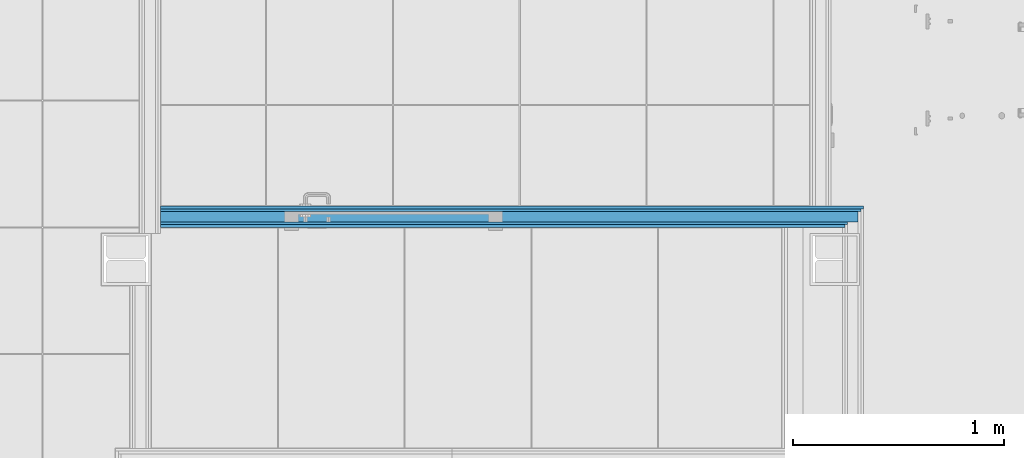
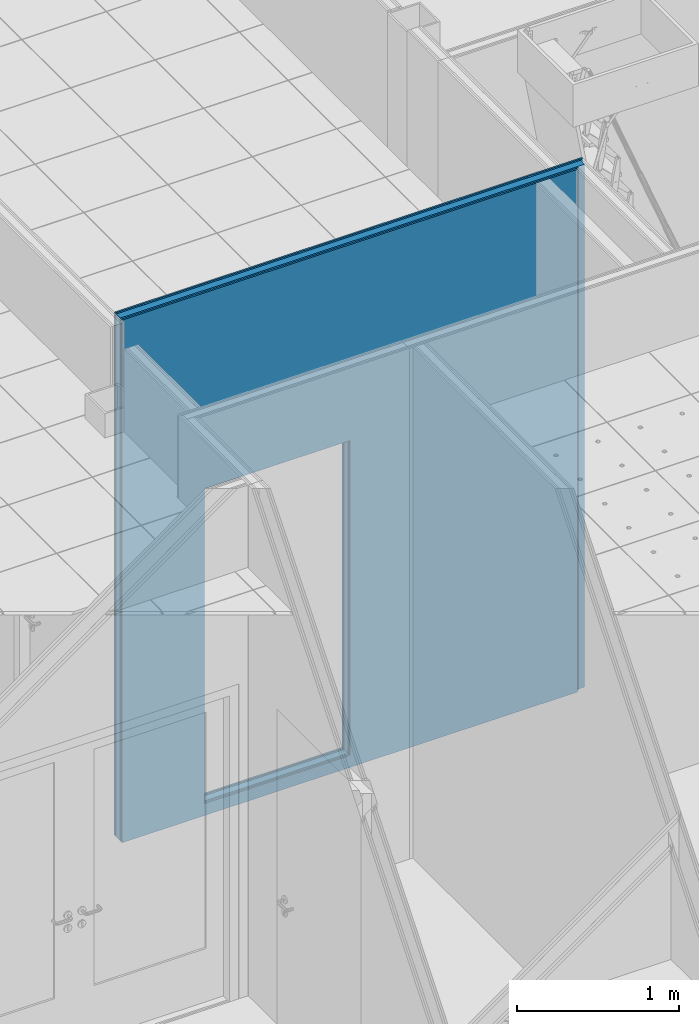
# One storey, part 24 of 321: 5 building element parts, 1 opening, 1 element without a shape of its own.
"""IFC2X3 building model written with IfcOpenShell, lengths in millimetres."""

from ifc_helpers import new_model, entity, si_unit, converted_unit, derived_unit, money_unit, direction, frame, origin_with_axes, place, context, subcontext, project, spatial, faceted_brep, material, type_object, element, aggregate, save


model = new_model("IFC2X3")

# Units and contexts
model_context = context("Model", 3, precision=0.01, world=origin_with_axes(), true_north=direction((0.0, 1.0)))
plan_context = context("Plan", 3, precision=0.01, world=origin_with_axes(), true_north=direction((0.0, 1.0)))
body_context = subcontext(model_context, "Body", "Model", "MODEL_VIEW")
ifc_project = project(units=[si_unit("LENGTHUNIT", "METRE", prefix="MILLI"), si_unit("AREAUNIT", "SQUARE_METRE"), si_unit("VOLUMEUNIT", "CUBIC_METRE"), converted_unit("PLANEANGLEUNIT", "DEGREE", entity("IfcPlaneAngleMeasure", 0.0174532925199), si_unit("PLANEANGLEUNIT", "RADIAN"), dimensions=[0, 0, 0, 0, 0, 0, 0]), money_unit("EUR"), converted_unit("TIMEUNIT", "Year", entity("IfcTimeMeasure", 31556926.0), si_unit("TIMEUNIT", "SECOND"), dimensions=[0, 0, 1, 0, 0, 0, 0]), si_unit("MASSUNIT", "GRAM", prefix="KILO"), si_unit("THERMODYNAMICTEMPERATUREUNIT", "DEGREE_CELSIUS"), si_unit("LUMINOUSINTENSITYUNIT", "LUMEN"), si_unit("ENERGYUNIT", "JOULE", prefix="MEGA"), derived_unit("THERMALCONDUCTANCEUNIT", [(si_unit("POWERUNIT", "WATT"), 1), (si_unit("LENGTHUNIT", "METRE"), -1), (si_unit("THERMODYNAMICTEMPERATUREUNIT", "KELVIN"), -1)]), derived_unit("SPECIFICHEATCAPACITYUNIT", [(si_unit("ENERGYUNIT", "JOULE"), 1), (si_unit("MASSUNIT", "GRAM", prefix="KILO"), -1), (si_unit("THERMODYNAMICTEMPERATUREUNIT", "KELVIN"), -1)]), derived_unit("MASSDENSITYUNIT", [(si_unit("MASSUNIT", "GRAM", prefix="KILO"), 1), (si_unit("VOLUMEUNIT", "CUBIC_METRE"), -1)])], contexts=[model_context, plan_context])

# Site, building, storey
site_placement = place(None, origin_with_axes())
site = spatial("IfcSite", under=ifc_project, at=site_placement, Name="Fortuinstraat Woensdrecht", CompositionType="ELEMENT")
building_placement = place(site_placement, origin_with_axes())
building = spatial("IfcBuilding", under=site, at=building_placement, Name="IKC Fortuna", CompositionType="ELEMENT")
storey_placement = place(building_placement, frame((0.0, 0.0, 4000.0), z_axis=(0.0, 0.0, 1.0), x_axis=(1.0, 0.0, 0.0)))
storey = spatial("IfcBuildingStorey", under=building, at=storey_placement, Name="01 eerste verdieping", CompositionType="ELEMENT", Elevation=4000.0)

# Wall, opening, building element parts
wall_type = type_object("IfcWallType", Name="MS100 2.50.2A 100", PredefinedType="NOTDEFINED")
wall_placement = place(storey_placement, frame((25682.9349765, 17985.434218, -90.0), z_axis=(0.0, 0.0, 1.0), x_axis=(1.0, 0.0, 0.0)))
wall = element("IfcWall", 1, at=wall_placement, inside=storey, type_object=wall_type, Name="22_Wand_Binnenwand")
opening_placement = place(wall_placement, frame((1197.38523045, 0.0, 90.0), z_axis=(0.0, 0.0, 1.0), x_axis=(1.0, 0.0, 0.0)))
element("IfcOpeningElement", 2, at=opening_placement, cuts=wall, Name="32_Deur_h.01a", context=body_context, shape_type="Brep", body=[
    faceted_brep([(517.0, -100.0, 2367.0), (517.0, -100.0, 0.0), (517.0, 200.0, 0.0), (517.0, 200.0, 2367.0), (-517.0, -100.0, 2367.0), (-517.0, -100.0, 0.0), (-517.0, 200.0, 0.0), (-517.0, 200.0, 2367.0)], [[[0, 1, 2, 3]], [[0, 4, 5, 1]], [[1, 5, 6, 2]], [[3, 2, 6, 7]], [[4, 0, 3, 7]], [[5, 4, 7, 6]]]),
])
ifc_material_1 = material(Name="Gipsplaat")
building_element_part_1_placement = place(wall_placement, origin_with_axes())
building_element_part_1 = element("IfcBuildingElementPart", 3, at=building_element_part_1_placement, material=ifc_material_1, Name="Gipsplaat", context=body_context, shape_type="Brep", body=[
    faceted_brep([(95.0, 87.5, 3930.0), (95.0, 87.5, 0.0), (3421.5, 87.5, 0.0), (3421.5, 87.5, 3930.0), (680.385230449, 87.5, 90.0), (680.385230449, 87.5, 2457.0), (1714.38523045, 87.5, 2457.0), (1714.38523045, 87.5, 90.0), (95.0, 100.0, 3930.0), (95.0, 100.0, 0.0), (3421.5, 100.0, 0.0), (3421.5, 100.0, 3930.0), (680.385230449, 100.0, 90.0), (680.385230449, 100.0, 2457.0), (1714.38523045, 100.0, 2457.0), (1714.38523045, 100.0, 90.0)], [[[0, 1, 2, 3], [4, 5, 6, 7]], [[8, 9, 1, 0]], [[1, 9, 10, 2]], [[2, 10, 11, 3]], [[8, 0, 3, 11]], [[12, 13, 5, 4]], [[13, 14, 6, 5]], [[14, 15, 7, 6]], [[15, 12, 4, 7]], [[9, 8, 11, 10], [12, 15, 14, 13]]]),
])
building_element_part_2_placement = place(wall_placement, origin_with_axes())
building_element_part_2 = element("IfcBuildingElementPart", 4, at=building_element_part_2_placement, material=ifc_material_1, Name="Gipsplaat", context=body_context, shape_type="Brep", body=[
    faceted_brep([(95.0, 75.0, 3930.0), (95.0, 75.0, 0.0), (3409.0, 75.0, 0.0), (3409.0, 75.0, 3930.0), (680.385230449, 75.0, 90.0), (680.385230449, 75.0, 2457.0), (1714.38523045, 75.0, 2457.0), (1714.38523045, 75.0, 90.0), (95.0, 87.5, 3930.0), (95.0, 87.5, 0.0), (3409.0, 87.5, 0.0), (3409.0, 87.5, 3930.0), (680.385230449, 87.5, 90.0), (680.385230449, 87.5, 2457.0), (1714.38523045, 87.5, 2457.0), (1714.38523045, 87.5, 90.0)], [[[0, 1, 2, 3], [4, 5, 6, 7]], [[8, 9, 1, 0]], [[1, 9, 10, 2]], [[2, 10, 11, 3]], [[8, 0, 3, 11]], [[12, 13, 5, 4]], [[13, 14, 6, 5]], [[14, 15, 7, 6]], [[15, 12, 4, 7]], [[9, 8, 11, 10], [12, 15, 14, 13]]]),
])
ifc_material_2 = material(Name="Isolatie - Steenwol LSW")
building_element_part_3_placement = place(wall_placement, origin_with_axes())
building_element_part_3 = element("IfcBuildingElementPart", 5, at=building_element_part_3_placement, material=ifc_material_2, Name="Isolatie - Steenwol LSW", context=body_context, shape_type="Brep", body=[
    faceted_brep([(95.0, 25.0, 3930.0), (95.0, 25.0, 0.0), (3396.5, 25.0, 0.0), (3396.5, 25.0, 3930.0), (680.385230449, 25.0, 90.0), (680.385230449, 25.0, 2457.0), (1714.38523045, 25.0, 2457.0), (1714.38523045, 25.0, 90.0), (95.0, 75.0, 3930.0), (95.0, 75.0, 0.0), (3396.5, 75.0, 0.0), (3396.5, 75.0, 3930.0), (680.385230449, 75.0, 90.0), (680.385230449, 75.0, 2457.0), (1714.38523045, 75.0, 2457.0), (1714.38523045, 75.0, 90.0)], [[[0, 1, 2, 3], [4, 5, 6, 7]], [[8, 9, 1, 0]], [[1, 9, 10, 2]], [[2, 10, 11, 3]], [[8, 0, 3, 11]], [[12, 13, 5, 4]], [[13, 14, 6, 5]], [[14, 15, 7, 6]], [[15, 12, 4, 7]], [[9, 8, 11, 10], [12, 15, 14, 13]]]),
])
building_element_part_4_placement = place(wall_placement, origin_with_axes())
building_element_part_4 = element("IfcBuildingElementPart", 6, at=building_element_part_4_placement, material=ifc_material_1, Name="Gipsplaat", context=body_context, shape_type="Brep", body=[
    faceted_brep([(95.0, 12.5, 3930.0), (95.0, 12.5, 0.0), (3346.5, 12.5, 0.0), (3346.5, 12.5, 3930.0), (680.385230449, 12.5, 90.0), (680.385230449, 12.5, 2457.0), (1714.38523045, 12.5, 2457.0), (1714.38523045, 12.5, 90.0), (95.0, 25.0, 3930.0), (95.0, 25.0, 0.0), (3346.5, 25.0, 0.0), (3346.5, 25.0, 3930.0), (680.385230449, 25.0, 90.0), (680.385230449, 25.0, 2457.0), (1714.38523045, 25.0, 2457.0), (1714.38523045, 25.0, 90.0)], [[[0, 1, 2, 3], [4, 5, 6, 7]], [[8, 9, 1, 0]], [[1, 9, 10, 2]], [[2, 10, 11, 3]], [[8, 0, 3, 11]], [[12, 13, 5, 4]], [[13, 14, 6, 5]], [[14, 15, 7, 6]], [[15, 12, 4, 7]], [[9, 8, 11, 10], [12, 15, 14, 13]]]),
])
building_element_part_5_placement = place(wall_placement, origin_with_axes())
building_element_part_5 = element("IfcBuildingElementPart", 7, at=building_element_part_5_placement, material=ifc_material_1, Name="Gipsplaat", context=body_context, shape_type="Brep", body=[
    faceted_brep([(95.0, 0.0, 3930.0), (95.0, 0.0, 0.0), (3334.0, 0.0, 0.0), (3334.0, 0.0, 3930.0), (680.385230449, 0.0, 90.0), (680.385230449, 0.0, 2457.0), (1714.38523045, 0.0, 2457.0), (1714.38523045, 0.0, 90.0), (95.0, 12.5, 3930.0), (95.0, 12.5, 0.0), (3334.0, 12.5, 0.0), (3334.0, 12.5, 3930.0), (680.385230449, 12.5, 90.0), (680.385230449, 12.5, 2457.0), (1714.38523045, 12.5, 2457.0), (1714.38523045, 12.5, 90.0)], [[[0, 1, 2, 3], [4, 5, 6, 7]], [[8, 9, 1, 0]], [[1, 9, 10, 2]], [[2, 10, 11, 3]], [[8, 0, 3, 11]], [[12, 13, 5, 4]], [[13, 14, 6, 5]], [[14, 15, 7, 6]], [[15, 12, 4, 7]], [[9, 8, 11, 10], [12, 15, 14, 13]]]),
])
aggregate(wall, [building_element_part_1, building_element_part_2, building_element_part_3, building_element_part_4, building_element_part_5])

save(model, "model.ifc")
